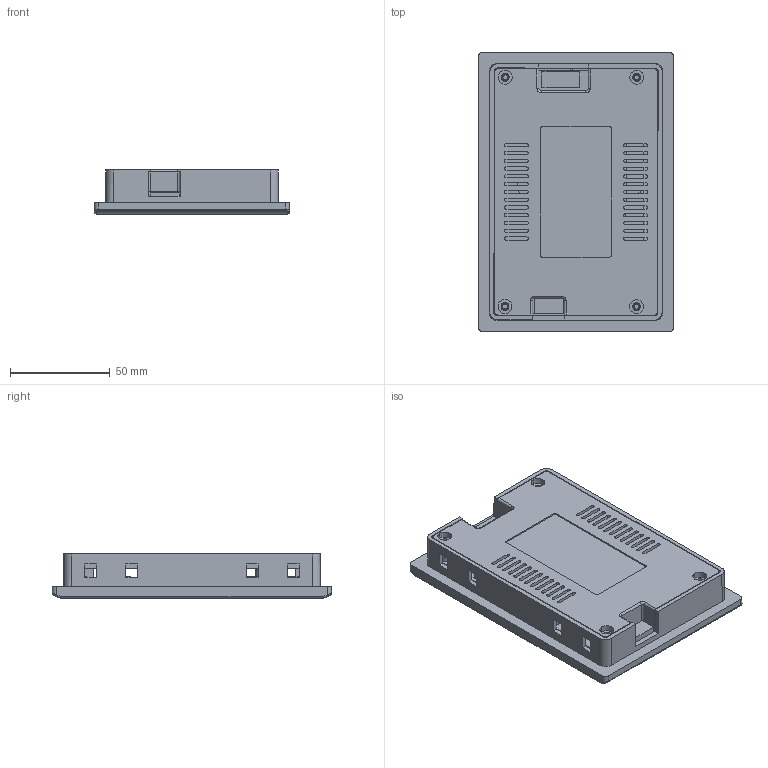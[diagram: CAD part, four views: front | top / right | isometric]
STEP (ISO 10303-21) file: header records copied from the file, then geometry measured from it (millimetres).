
FILE_DESCRIPTION((''),'2;1');
FILE_NAME('DMG48270C043-15WTR','2022-02-11T',('Administrator'),(''),'PRO/ENGINEER BY PARAMETRIC TECHNOLOGY CORPORATION, 2011310','PRO/ENGINEER BY PARAMETRIC TECHNOLOGY CORPORATION, 2011310','');
FILE_SCHEMA(('CONFIG_CONTROL_DESIGN','SHAPE_APPEARANCE_LAYERS_GROUPS'));
Length unit declared in the file: millimetre
Products named in the file (1): DMG48270C043-15WTR
Bounding box: 98.13 x 140.09 x 22.1 mm (x, y, z)
Volume: 123166.8 mm3; surface area: 131882.9 mm2
Topology: 1 solids, 5 shells, 850 faces, 2501 edges, 1632 vertices
Faces by surface type: plane 608, cylinder 206, cone 8, torus 8, extrusion 8, bspline 8, sphere 4
Entity records: 34365 total; most frequent: CARTESIAN_POINT 5756, ORIENTED_EDGE 4994, DIRECTION 4524, EDGE_CURVE 2497, VECTOR 1960, LINE 1952, VERTEX_POINT 1632, AXIS2_PLACEMENT_3D 1282
